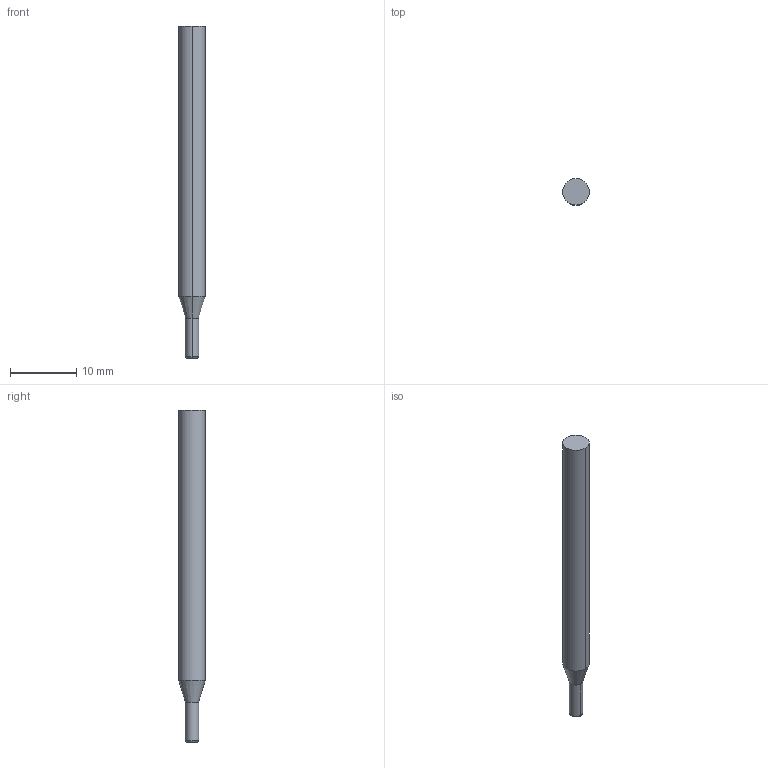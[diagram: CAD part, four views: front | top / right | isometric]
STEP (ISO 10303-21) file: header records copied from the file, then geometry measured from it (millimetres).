
FILE_DESCRIPTION((' '),'2;1');
FILE_NAME( '3MVRM0200R.20AH.stp', '2026-01-21T19:06:09', (' '), ('--- Datakit www.datakit.com---'), ' Datakit CrossCadWare V2025.4 Sep 19 2025', 'Mastercam 2027', ' ');
FILE_SCHEMA(('AUTOMOTIVE_DESIGN { 1 0 10303 214 1 1 1 1 }'));
Length unit declared in the file: inch
Products named in the file (1): 3MVRM0200R
Bounding box: 4 x 4 x 50 mm (x, y, z)
Volume: 554.7 mm3; surface area: 596.9 mm2
Topology: 1 solids, 1 shells, 10 faces, 18 edges, 10 vertices
Faces by surface type: cylinder 4, plane 2, torus 2, cone 2
Entity records: 318 total; most frequent: DIRECTION 60, CARTESIAN_POINT 43, ORIENTED_EDGE 36, AXIS2_PLACEMENT_3D 27, EDGE_CURVE 18, CIRCLE 12, VERTEX_POINT 10, EDGE_LOOP 10
